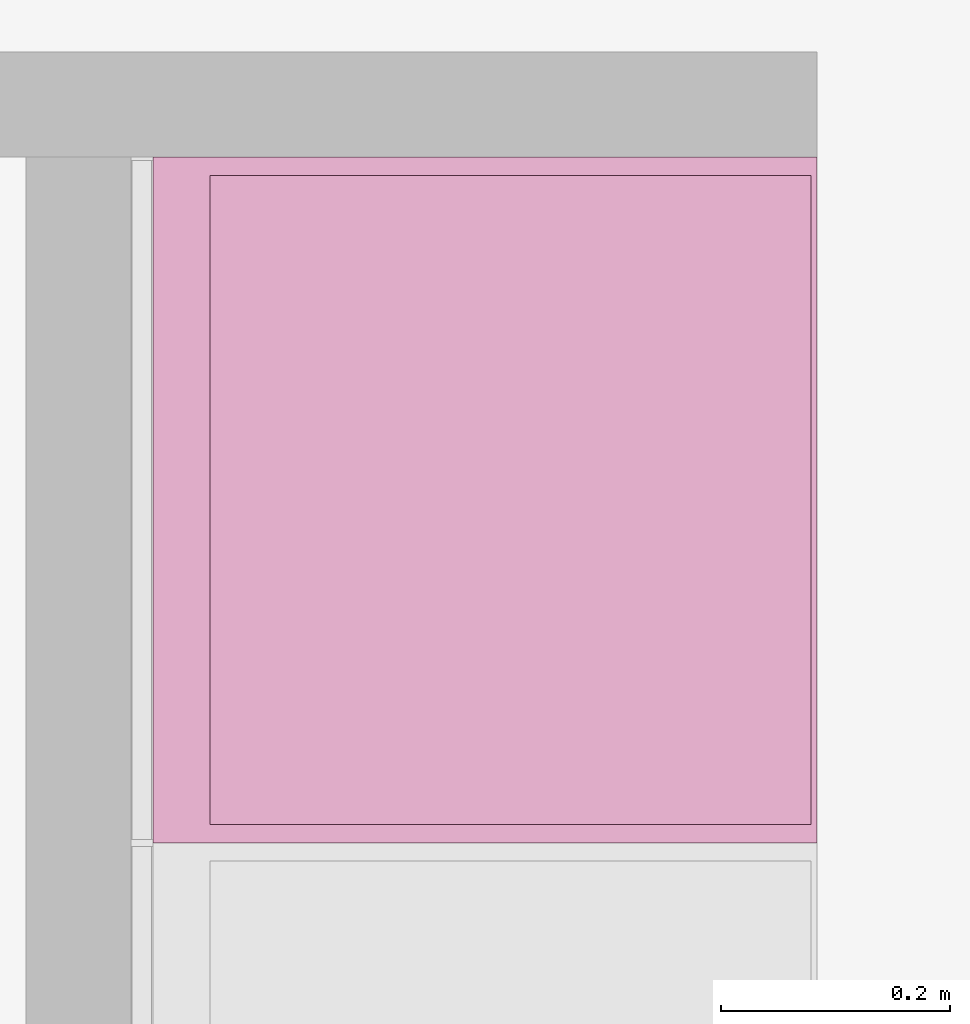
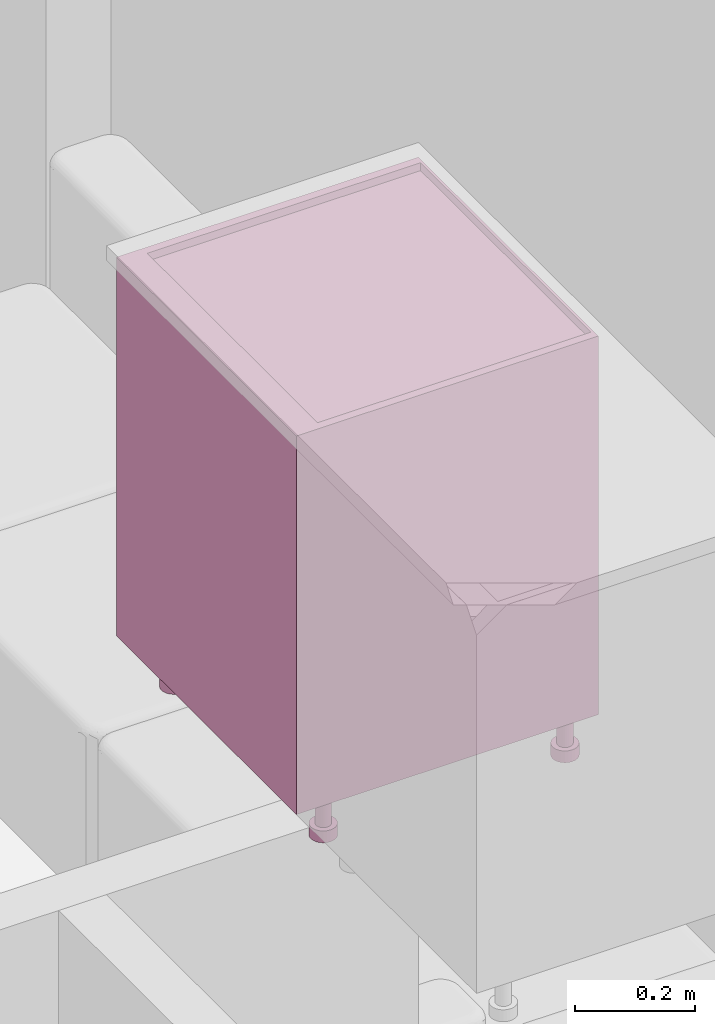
# One storey, part 76 of 125: 1 furnishing.
"""IFC2X3 building model written with IfcOpenShell, lengths in millimetres."""

import ifcopenshell
import ifcopenshell.guid

model = None  # the IFC model being written
_history = None  # IfcOwnerHistory: only IFC2X3 demands one
_inside = {}  # id of a spatial element -> (the spatial element, [elements in it])
_under = {}  # id of a project, library or spatial element -> (it, [spatial elements below it])
_declared = {}  # id of a project -> (the project, [libraries it declares])
_typed = {}  # id of a type object -> (the type object, [elements of that type])
_made_of = {}  # id of a material, layer set ... -> (it, [elements and type objects made of it])


def new_model(schema):
    """Start an empty IFC model of exactly this schema.

    Asked for "IFC4X3", IfcOpenShell would pick the latest addendum, in which some entities
    have other attributes; the version numbers below select the first issue.
    IFC2X3 requires an IfcOwnerHistory on every rooted entity: one is made here for all.
    """
    global model, _history
    if schema == "IFC4X3":
        model = ifcopenshell.file(schema_version=(4, 3, 0, 0))
    else:
        model = ifcopenshell.file(schema=schema)
    _inside.clear()
    _under.clear()
    _declared.clear()
    _typed.clear()
    _made_of.clear()
    _history = None
    if model.schema == "IFC2X3":
        org = make("IfcOrganization", Name="unknown")
        user = make(
            "IfcPersonAndOrganization",
            ThePerson=make("IfcPerson", FamilyName="unknown"),
            TheOrganization=org,
        )
        app = make(
            "IfcApplication",
            ApplicationDeveloper=org,
            Version="unknown",
            ApplicationFullName="unknown",
            ApplicationIdentifier="unknown",
        )
        _history = make(
            "IfcOwnerHistory",
            OwningUser=user,
            OwningApplication=app,
            ChangeAction="ADDED",
            CreationDate=0,
        )
    return model


def make(cls, **values):
    """One entity of the class cls with the attributes given. An attribute that is None is left unset."""
    return model.create_entity(
        cls, **{name: value for name, value in values.items() if value is not None}
    )


def entity(cls, *values):
    """Any entity or typed value of the class cls, its attributes in the order of the schema. None: left unset."""
    e = model.create_entity(cls)
    for i, value in enumerate(values):
        if value is not None:
            e[i] = value
    return e


def rooted(cls, **values):
    """An entity with a GlobalId (a new one), such as an element, a storey or a relation."""
    return make(cls, GlobalId=ifcopenshell.guid.new(), OwnerHistory=_history, **values)


def si_unit(unit_type, name, prefix=None):
    """IfcSIUnit, for example si_unit("LENGTHUNIT", "METRE", prefix="MILLI")."""
    return make("IfcSIUnit", UnitType=unit_type, Prefix=prefix, Name=name)


def converted_unit(unit_type, name, factor, base, dimensions=None, offset=None):
    """IfcConversionBasedUnit, such as the inch: factor (a typed value) times the base unit."""
    return make(
        "IfcConversionBasedUnit"
        if offset is None
        else "IfcConversionBasedUnitWithOffset",
        ConversionOffset=offset,
        Dimensions=None
        if dimensions is None
        else entity("IfcDimensionalExponents", *dimensions),
        UnitType=unit_type,
        Name=name,
        ConversionFactor=make(
            "IfcMeasureWithUnit", ValueComponent=factor, UnitComponent=base
        ),
    )


def assignment(units):
    """IfcUnitAssignment: the units of a project."""
    return None if units is None else make("IfcUnitAssignment", Units=units)


def point(xyz):
    """IfcCartesianPoint."""
    return None if xyz is None else make("IfcCartesianPoint", Coordinates=xyz)


def direction(xyz):
    """IfcDirection."""
    return None if xyz is None else make("IfcDirection", DirectionRatios=xyz)


def frame(location, z_axis=None, x_axis=None):
    """IfcAxis2Placement3D, a coordinate frame: its origin and axes. An axis left out is left unset."""
    return make(
        "IfcAxis2Placement3D",
        Location=point(location),
        Axis=direction(z_axis),
        RefDirection=direction(x_axis),
    )


def origin():
    """The frame at (0, 0, 0) with its axes left unset."""
    return frame((0.0, 0.0, 0.0))


def place(relative_to, where):
    """IfcLocalPlacement: puts the frame where relative to a parent placement (None: the world)."""
    return make(
        "IfcLocalPlacement", PlacementRelTo=relative_to, RelativePlacement=where
    )


def context(
    kind, dimensions, precision=None, world=None, true_north=None, identifier=None
):
    """IfcGeometricRepresentationContext, for example the 3D "Model" context."""
    return make(
        "IfcGeometricRepresentationContext",
        ContextIdentifier=identifier,
        ContextType=kind,
        CoordinateSpaceDimension=dimensions,
        Precision=precision,
        WorldCoordinateSystem=world,
        TrueNorth=true_north,
    )


def subcontext(parent, identifier, kind, view, scale=None):
    """IfcGeometricRepresentationSubContext, for example "Body" below "Model"."""
    return make(
        "IfcGeometricRepresentationSubContext",
        ContextIdentifier=identifier,
        ContextType=kind,
        ParentContext=parent,
        TargetScale=scale,
        TargetView=view,
    )


def project(units=None, contexts=None):
    """IfcProject with its units and contexts."""
    return rooted(
        "IfcProject",
        Name="project",
        RepresentationContexts=contexts,
        UnitsInContext=assignment(units),
    )


def spatial(cls, under=None, at=None, **own):
    """A site, building, storey or space (cls), placed at a placement, below another one or the project."""
    s = rooted(cls, ObjectPlacement=at, **own)
    if under is not None:
        _under.setdefault(under.id(), (under, []))[1].append(s)
    return s


def faces_of(points, faces, orient=None, outer=None):
    """IfcFace entities. A face is a list of loops; a loop is a list of indices into points, from 0.

    orient and outer hold one flag for each loop. By default every Orientation is true, the
    first loop of a face is its IfcFaceOuterBound and the others are IfcFaceBound.
    """
    made = []
    for i, loops in enumerate(faces):
        bounds = []
        for j, loop in enumerate(loops):
            is_outer = j == 0 if outer is None else outer[i][j]
            bounds.append(
                make(
                    "IfcFaceOuterBound" if is_outer else "IfcFaceBound",
                    Bound=make("IfcPolyLoop", Polygon=[points[k] for k in loop]),
                    Orientation=True if orient is None else orient[i][j],
                )
            )
        made.append(make("IfcFace", Bounds=bounds))
    return made


def faceted_brep(points, faces, orient=None, outer=None, voids=None):
    """IfcFacetedBrep: a solid bounded by flat faces; with voids (closed shells), ...WithVoids."""
    shared = [point(p) for p in points]
    hull = make("IfcClosedShell", CfsFaces=faces_of(shared, faces, orient, outer))
    if voids is None:
        return make("IfcFacetedBrep", Outer=hull)
    return make(
        "IfcFacetedBrepWithVoids",
        Outer=hull,
        Voids=[
            make(cls, CfsFaces=faces_of(shared, fs, o, b)) for cls, fs, o, b in voids
        ],
    )


def shape(context_of_items, identifier, shape_type, items):
    """IfcShapeRepresentation: the items that make up one representation, for example the "Body"."""
    return make(
        "IfcShapeRepresentation",
        ContextOfItems=context_of_items,
        RepresentationIdentifier=identifier,
        RepresentationType=shape_type,
        Items=items,
    )


def source(mapping_origin, context_of_items, identifier, shape_type, items):
    """IfcRepresentationMap: a shape defined once, which mapped items show again and again."""
    return make(
        "IfcRepresentationMap",
        MappingOrigin=mapping_origin,
        MappedRepresentation=shape(context_of_items, identifier, shape_type, items),
    )


def transform(
    local_origin,
    x_axis=None,
    y_axis=None,
    z_axis=None,
    scale=None,
    scale2=None,
    scale3=None,
    uniform=True,
):
    """IfcCartesianTransformationOperator3D, or its non-uniform kind. x_axis, y_axis, z_axis: its Axis1, 2, 3."""
    if uniform:
        return make(
            "IfcCartesianTransformationOperator3D",
            Axis1=direction(x_axis),
            Axis2=direction(y_axis),
            LocalOrigin=point(local_origin),
            Scale=scale,
            Axis3=direction(z_axis),
        )
    return make(
        "IfcCartesianTransformationOperator3DnonUniform",
        Axis1=direction(x_axis),
        Axis2=direction(y_axis),
        LocalOrigin=point(local_origin),
        Scale=scale,
        Axis3=direction(z_axis),
        Scale2=scale2,
        Scale3=scale3,
    )


def mapped(mapping_source, mapping_target):
    """IfcMappedItem: shows the shape of a source again, moved by a transform."""
    return make(
        "IfcMappedItem", MappingSource=mapping_source, MappingTarget=mapping_target
    )


def material(Name=None, Category=None):
    """IfcMaterial."""
    return make("IfcMaterial", Name=Name, Category=Category)


def made_of(thing, what):
    """Note that an element or type object is made of a material, layer set ...; save() writes the relation."""
    if what is not None:
        _made_of.setdefault(what.id(), (what, []))[1].append(thing)
    return thing


def type_object(cls, material=None, **own):
    """A type object (cls), such as IfcWallType, which elements share."""
    return made_of(rooted(cls, **own), material)


def type_shapes(of_type, sources):
    """Give a type object the sources (RepresentationMaps) that its elements show as mapped items."""
    of_type.RepresentationMaps = sources


def element(
    cls,
    number,
    at=None,
    inside=None,
    cuts=None,
    type_object=None,
    material=None,
    context=None,
    identifier="Body",
    shape_type=None,
    held_by="IfcProductDefinitionShape",
    body=None,
    shapes=None,
    **own,
):
    """One element of the class cls, such as IfcWall. Its Tag is "e" and its number.

    at: its placement. inside: the storey or other place that contains it. cuts: it is an
    opening in that element (IfcRelVoidsElement). A single representation is given by context,
    identifier, shape_type and body (its items); several are given by shapes. held_by: the class
    of the entity that holds the representations. save() writes the other relations.
    """
    e = rooted(cls, Tag="e%d" % number, ObjectPlacement=at, **own)
    if body is not None:
        shapes = [shape(context, identifier, shape_type, body)]
    if shapes is not None:
        e.Representation = make(held_by, Representations=shapes)
    if inside is not None:
        _inside.setdefault(inside.id(), (inside, []))[1].append(e)
    if cuts is not None:
        rooted(
            "IfcRelVoidsElement", RelatingBuildingElement=cuts, RelatedOpeningElement=e
        )
    if type_object is not None:
        _typed.setdefault(type_object.id(), (type_object, []))[1].append(e)
    return made_of(e, material)


def aggregate(whole, parts):
    """IfcRelAggregates: a whole, such as a stair, and the parts it consists of."""
    return rooted("IfcRelAggregates", RelatingObject=whole, RelatedObjects=parts)


def save(model, path):
    """Write the relations noted so far, then the file.

    IfcRelAggregates (storeys below a building ...), IfcRelContainedInSpatialStructure (elements
    in a storey), IfcRelDefinesByType, IfcRelAssociatesMaterial and IfcRelDeclares: one each for
    every whole, place, type object, material and project.
    """
    for whole, parts in _under.values():
        aggregate(whole, parts)
    for where, things in _inside.values():
        rooted(
            "IfcRelContainedInSpatialStructure",
            RelatedElements=things,
            RelatingStructure=where,
        )
    for kind, things in _typed.values():
        rooted("IfcRelDefinesByType", RelatedObjects=things, RelatingType=kind)
    for what, things in _made_of.values():
        rooted("IfcRelAssociatesMaterial", RelatedObjects=things, RelatingMaterial=what)
    for by, libraries in _declared.values():
        rooted("IfcRelDeclares", RelatingContext=by, RelatedDefinitions=libraries)
    model.write(path)


model = new_model("IFC2X3")

# Units and contexts
model_context = context("Model", 3, precision=0.01, world=origin(), true_north=direction((6.123233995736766e-17, 1.0)))
plan_context = context("Plan", 3, precision=0.01, world=origin(), true_north=direction((6.123233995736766e-17, 1.0)))
body_context = subcontext(model_context, "Body", "Model", "MODEL_VIEW")
ifc_project = project(units=[si_unit("LENGTHUNIT", "METRE", prefix="MILLI"), converted_unit("PLANEANGLEUNIT", "DEGREE", entity("IfcPlaneAngleMeasure", 0.017453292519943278), si_unit("PLANEANGLEUNIT", "RADIAN"), dimensions=[0, 0, 0, 0, 0, 0, 0]), si_unit("AREAUNIT", "SQUARE_METRE")], contexts=[model_context, plan_context])

# Site, building, storey, space
site_placement = place(None, origin())
site = spatial("IfcSite", under=ifc_project, at=site_placement, Name="Default", CompositionType="ELEMENT")
building_placement = place(site_placement, origin())
building = spatial("IfcBuilding", under=site, at=building_placement, CompositionType="ELEMENT")
storey_placement = place(building_placement, frame((0.0, 0.0, 3125.0)))
storey = spatial("IfcBuildingStorey", under=building, at=storey_placement, Name="2K", CompositionType="ELEMENT", Elevation=3125.0)
space_placement = place(storey_placement, origin())
space = spatial("IfcSpace", under=storey, at=space_placement, Name="2-2.2", CompositionType="ELEMENT", InteriorOrExteriorSpace="INTERNAL")

# Furnishing
ifc_material = material(Name="<Unnamed>")
furniture_type = type_object("IfcFurnitureType", Name="HR_Casework_Kitchen_Generic_Appliance_v1:Fridge", AssemblyPlace="NOTDEFINED", material=ifc_material)
shared_shape = source(origin(), body_context, "Body", "Brep", [
    faceted_brep([(305.7003264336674, -585.7846096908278, -3101.0), (310.6708891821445, -581.9705627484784, -3101.0), (300.70032643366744, -577.1243556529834, -3101.0), (297.32379306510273, -578.5229615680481, -3101.0), (299.91198351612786, -588.1822198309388, -3101.0), (303.59982137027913, -574.8994949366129, -3101.0), (314.4849361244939, -577.0, -3101.0), (305.82468208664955, -572.0, -3101.0), (307.2232880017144, -568.6234666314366, -3101.0), (316.8825462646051, -571.2116570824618, -3101.0), (307.70032643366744, -565.0, -3101.0), (317.7003264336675, -565.0, -3101.0), (307.2232880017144, -561.3765333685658, -3101.0), (316.88254626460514, -558.7883429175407, -3101.0), (305.82468208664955, -558.0, -3101.0), (314.484936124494, -553.0, -3101.0), (303.59982137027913, -555.1005050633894, -3101.0), (310.67088918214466, -548.0294372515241, -3101.0), (300.70032643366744, -552.875644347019, -3101.0), (305.7003264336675, -544.2153903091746, -3101.0), (297.32379306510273, -551.4770384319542, -3101.0), (299.91198351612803, -541.8177801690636, -3101.0), (293.7003264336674, -551.0, -3101.0), (293.70032643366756, -541.0, -3101.0), (290.07685980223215, -551.4770384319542, -3101.0), (287.488669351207, -541.8177801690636, -3101.0), (286.70032643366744, -552.875644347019, -3101.0), (281.7003264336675, -544.2153903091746, -3101.0), (283.80083149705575, -555.1005050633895, -3101.0), (276.7297636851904, -548.029437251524, -3101.0), (281.5759707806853, -558.0, -3101.0), (272.91571674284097, -553.0, -3101.0), (270.51810660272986, -558.7883429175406, -3101.0), (280.1773648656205, -561.3765333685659, -3101.0), (269.7003264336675, -565.0, -3101.0), (279.7003264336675, -565.0, -3101.0), (270.51810660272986, -571.2116570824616, -3101.0), (280.1773648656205, -568.6234666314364, -3101.0), (272.9157167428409, -577.0, -3101.0), (281.57597078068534, -572.0, -3101.0), (276.7297636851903, -581.9705627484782, -3101.0), (283.80083149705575, -574.8994949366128, -3101.0), (281.70032643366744, -585.7846096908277, -3101.0), (286.70032643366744, -577.1243556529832, -3101.0), (287.4886693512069, -588.1822198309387, -3101.0), (290.07685980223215, -578.5229615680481, -3101.0), (293.7003264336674, -589.0, -3101.0), (293.70032643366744, -579.0, -3101.0), (299.91198351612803, -541.8177801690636, -3125.0), (305.7003264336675, -544.2153903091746, -3125.0), (310.67088918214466, -548.0294372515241, -3125.0), (314.484936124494, -553.0, -3125.0), (316.88254626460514, -558.7883429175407, -3125.0), (317.7003264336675, -565.0, -3125.0), (316.8825462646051, -571.2116570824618, -3125.0), (314.4849361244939, -577.0, -3125.0), (310.6708891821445, -581.9705627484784, -3125.0), (305.7003264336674, -585.7846096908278, -3125.0), (299.91198351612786, -588.1822198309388, -3125.0), (293.7003264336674, -589.0, -3125.0), (287.4886693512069, -588.1822198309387, -3125.0), (281.70032643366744, -585.7846096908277, -3125.0), (276.7297636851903, -581.9705627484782, -3125.0), (272.9157167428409, -577.0, -3125.0), (270.51810660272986, -571.2116570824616, -3125.0), (269.7003264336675, -565.0, -3125.0), (270.51810660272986, -558.7883429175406, -3125.0), (272.91571674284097, -553.0, -3125.0), (276.7297636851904, -548.029437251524, -3125.0), (281.7003264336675, -544.2153903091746, -3125.0), (287.488669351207, -541.8177801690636, -3125.0), (293.70032643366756, -541.0, -3125.0), (297.32379306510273, -578.5229615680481, -3025.0), (300.70032643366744, -577.1243556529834, -3025.0), (303.59982137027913, -574.8994949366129, -3025.0), (305.8246820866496, -572.0, -3025.0), (307.2232880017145, -568.6234666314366, -3025.0), (307.70032643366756, -565.0, -3025.0), (307.2232880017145, -561.3765333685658, -3025.0), (305.8246820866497, -558.0, -3025.0), (303.5998213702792, -555.1005050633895, -3025.0), (300.70032643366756, -552.875644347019, -3025.0), (297.32379306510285, -551.4770384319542, -3025.0), (293.70032643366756, -551.0, -3025.0), (290.07685980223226, -551.4770384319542, -3025.0), (286.70032643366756, -552.875644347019, -3025.0), (283.80083149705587, -555.1005050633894, -3025.0), (281.5759707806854, -558.0, -3025.0), (280.1773648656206, -561.3765333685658, -3025.0), (279.70032643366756, -565.0, -3025.0), (280.1773648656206, -568.6234666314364, -3025.0), (281.5759707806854, -572.0, -3025.0), (283.8008314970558, -574.8994949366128, -3025.0), (286.7003264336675, -577.1243556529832, -3025.0), (290.07685980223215, -578.5229615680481, -3025.0), (293.70032643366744, -579.0, -3025.0)], [[[0, 1, 2]], [[0, 2, 3]], [[3, 4, 0]], [[2, 1, 5]], [[6, 5, 1]], [[7, 5, 6]], [[8, 7, 6]], [[8, 6, 9]], [[8, 9, 10]], [[10, 9, 11]], [[12, 10, 11]], [[12, 11, 13]], [[14, 12, 13]], [[14, 13, 15]], [[16, 14, 15]], [[15, 17, 16]], [[17, 18, 16]], [[18, 17, 19]], [[18, 19, 20]], [[21, 20, 19]], [[20, 21, 22]], [[22, 21, 23]], [[23, 24, 22]], [[24, 23, 25]], [[24, 25, 26]], [[27, 26, 25]], [[27, 28, 26]], [[27, 29, 28]], [[30, 28, 29]], [[31, 30, 29]], [[32, 30, 31]], [[33, 30, 32]], [[33, 32, 34]], [[34, 35, 33]], [[36, 35, 34]], [[36, 37, 35]], [[37, 36, 38]], [[39, 37, 38]], [[39, 38, 40]], [[39, 40, 41]], [[40, 42, 41]], [[41, 42, 43]], [[43, 42, 44]], [[44, 45, 43]], [[46, 45, 44]], [[4, 47, 46]], [[45, 46, 47]], [[4, 3, 47]], [[48, 49, 50, 51, 52, 53, 54, 55, 56, 57, 58, 59, 60, 61, 62, 63, 64, 65, 66, 67, 68, 69, 70, 71]], [[64, 36, 34, 65]], [[63, 38, 36, 64]], [[42, 40, 62, 61]], [[63, 62, 40, 38]], [[44, 42, 61, 60]], [[46, 44, 60, 59]], [[58, 4, 46, 59]], [[57, 0, 4, 58]], [[54, 53, 11, 9]], [[1, 0, 57, 56]], [[6, 55, 54, 9]], [[6, 1, 56, 55]], [[52, 13, 11, 53]], [[51, 15, 13, 52]], [[19, 17, 50, 49]], [[51, 50, 17, 15]], [[21, 19, 49, 48]], [[23, 21, 48, 71]], [[27, 69, 68, 29]], [[31, 67, 66, 32]], [[68, 67, 31, 29]], [[32, 66, 65, 34]], [[25, 70, 69, 27]], [[70, 25, 23, 71]], [[72, 73, 74, 75, 76, 77, 78, 79, 80, 81, 82, 83, 84, 85, 86, 87, 88, 89, 90, 91, 92, 93, 94, 95]], [[37, 39, 91, 90]], [[35, 37, 90, 89]], [[43, 45, 94, 93]], [[41, 43, 93, 92]], [[39, 41, 92, 91]], [[47, 95, 94, 45]], [[2, 5, 74, 73]], [[3, 2, 73, 72]], [[8, 10, 77, 76]], [[7, 8, 76, 75]], [[5, 7, 75, 74]], [[3, 72, 95, 47]], [[79, 78, 12, 14]], [[78, 77, 10, 12]], [[80, 16, 18, 81]], [[16, 80, 79, 14]], [[81, 18, 20, 82]], [[22, 83, 82, 20]], [[26, 28, 86, 85]], [[24, 26, 85, 84]], [[33, 35, 89, 88]], [[30, 33, 88, 87]], [[28, 30, 87, 86]], [[24, 84, 83, 22]]]),
    faceted_brep([(-192.29967356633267, -585.7846096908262, -3101.0), (-187.3291108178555, -581.9705627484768, -3101.0), (-197.29967356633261, -577.1243556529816, -3101.0), (-200.67620693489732, -578.5229615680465, -3101.0), (-198.08801648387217, -588.1822198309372, -3101.0), (-194.40017862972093, -574.8994949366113, -3101.0), (-183.51506387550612, -577.0, -3101.0), (-192.17531791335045, -572.0, -3101.0), (-190.77671199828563, -568.6234666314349, -3101.0), (-181.11745373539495, -571.2116570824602, -3101.0), (-190.29967356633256, -565.0, -3101.0), (-180.29967356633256, -565.0, -3101.0), (-190.77671199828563, -561.3765333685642, -3101.0), (-181.11745373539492, -558.788342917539, -3101.0), (-192.17531791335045, -558.0, -3101.0), (-183.515063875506, -553.0, -3101.0), (-194.40017862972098, -555.1005050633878, -3101.0), (-187.3291108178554, -548.0294372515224, -3101.0), (-197.29967356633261, -552.8756443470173, -3101.0), (-192.29967356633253, -544.215390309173, -3101.0), (-200.67620693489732, -551.4770384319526, -3101.0), (-198.08801648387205, -541.8177801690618, -3101.0), (-204.29967356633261, -551.0, -3101.0), (-204.29967356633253, -541.0, -3101.0), (-207.92314019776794, -551.4770384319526, -3101.0), (-210.51133064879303, -541.8177801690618, -3101.0), (-211.29967356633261, -552.8756443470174, -3101.0), (-216.29967356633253, -544.215390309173, -3101.0), (-214.19916850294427, -555.1005050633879, -3101.0), (-221.27023631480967, -548.0294372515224, -3101.0), (-216.42402921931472, -558.0, -3101.0), (-225.08428325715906, -553.0, -3101.0), (-227.48189339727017, -558.788342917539, -3101.0), (-217.8226351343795, -561.3765333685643, -3101.0), (-228.2996735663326, -565.0, -3101.0), (-218.29967356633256, -565.0, -3101.0), (-227.48189339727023, -571.21165708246, -3101.0), (-217.8226351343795, -568.6234666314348, -3101.0), (-225.08428325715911, -577.0, -3101.0), (-216.42402921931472, -572.0, -3101.0), (-221.27023631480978, -581.9705627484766, -3101.0), (-214.19916850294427, -574.8994949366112, -3101.0), (-216.29967356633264, -585.784609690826, -3101.0), (-211.29967356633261, -577.1243556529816, -3101.0), (-210.51133064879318, -588.1822198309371, -3101.0), (-207.9231401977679, -578.5229615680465, -3101.0), (-204.2996735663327, -589.0, -3101.0), (-204.29967356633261, -579.0, -3101.0), (-198.08801648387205, -541.8177801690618, -3125.0), (-192.29967356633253, -544.215390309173, -3125.0), (-187.3291108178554, -548.0294372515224, -3125.0), (-183.515063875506, -553.0, -3125.0), (-181.11745373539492, -558.788342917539, -3125.0), (-180.29967356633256, -565.0, -3125.0), (-181.11745373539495, -571.2116570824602, -3125.0), (-183.51506387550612, -577.0, -3125.0), (-187.3291108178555, -581.9705627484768, -3125.0), (-192.29967356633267, -585.7846096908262, -3125.0), (-198.08801648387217, -588.1822198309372, -3125.0), (-204.2996735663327, -589.0, -3125.0), (-210.51133064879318, -588.1822198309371, -3125.0), (-216.29967356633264, -585.784609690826, -3125.0), (-221.27023631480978, -581.9705627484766, -3125.0), (-225.08428325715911, -577.0, -3125.0), (-227.48189339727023, -571.21165708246, -3125.0), (-228.2996735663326, -565.0, -3125.0), (-227.48189339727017, -558.788342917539, -3125.0), (-225.08428325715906, -553.0, -3125.0), (-221.27023631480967, -548.0294372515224, -3125.0), (-216.29967356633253, -544.215390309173, -3125.0), (-210.51133064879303, -541.8177801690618, -3125.0), (-204.29967356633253, -541.0, -3125.0), (-200.67620693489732, -578.5229615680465, -3025.0), (-197.29967356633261, -577.1243556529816, -3025.0), (-194.40017862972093, -574.8994949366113, -3025.0), (-192.17531791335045, -572.0, -3025.0), (-190.77671199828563, -568.6234666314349, -3025.0), (-190.29967356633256, -565.0, -3025.0), (-190.77671199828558, -561.3765333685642, -3025.0), (-192.1753179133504, -558.0, -3025.0), (-194.40017862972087, -555.1005050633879, -3025.0), (-197.29967356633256, -552.8756443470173, -3025.0), (-200.67620693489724, -551.4770384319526, -3025.0), (-204.29967356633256, -551.0, -3025.0), (-207.92314019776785, -551.4770384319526, -3025.0), (-211.29967356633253, -552.8756443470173, -3025.0), (-214.1991685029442, -555.1005050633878, -3025.0), (-216.4240292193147, -558.0, -3025.0), (-217.8226351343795, -561.3765333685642, -3025.0), (-218.29967356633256, -565.0, -3025.0), (-217.8226351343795, -568.6234666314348, -3025.0), (-216.42402921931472, -572.0, -3025.0), (-214.19916850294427, -574.8994949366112, -3025.0), (-211.2996735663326, -577.1243556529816, -3025.0), (-207.9231401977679, -578.5229615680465, -3025.0), (-204.29967356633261, -579.0, -3025.0)], [[[0, 1, 2]], [[0, 2, 3]], [[3, 4, 0]], [[2, 1, 5]], [[6, 5, 1]], [[7, 5, 6]], [[8, 7, 6]], [[8, 6, 9]], [[8, 9, 10]], [[10, 9, 11]], [[12, 10, 11]], [[12, 11, 13]], [[14, 12, 13]], [[14, 13, 15]], [[16, 14, 15]], [[15, 17, 16]], [[17, 18, 16]], [[18, 17, 19]], [[18, 19, 20]], [[21, 20, 19]], [[20, 21, 22]], [[22, 21, 23]], [[23, 24, 22]], [[24, 23, 25]], [[24, 25, 26]], [[27, 26, 25]], [[27, 28, 26]], [[27, 29, 28]], [[30, 28, 29]], [[31, 30, 29]], [[32, 30, 31]], [[33, 30, 32]], [[33, 32, 34]], [[34, 35, 33]], [[36, 35, 34]], [[36, 37, 35]], [[37, 36, 38]], [[39, 37, 38]], [[39, 38, 40]], [[39, 40, 41]], [[40, 42, 41]], [[41, 42, 43]], [[43, 42, 44]], [[44, 45, 43]], [[46, 45, 44]], [[4, 47, 46]], [[45, 46, 47]], [[4, 3, 47]], [[48, 49, 50, 51, 52, 53, 54, 55, 56, 57, 58, 59, 60, 61, 62, 63, 64, 65, 66, 67, 68, 69, 70, 71]], [[64, 36, 34, 65]], [[63, 38, 36, 64]], [[42, 40, 62, 61]], [[63, 62, 40, 38]], [[44, 42, 61, 60]], [[46, 44, 60, 59]], [[58, 4, 46, 59]], [[57, 0, 4, 58]], [[54, 53, 11, 9]], [[1, 0, 57, 56]], [[6, 55, 54, 9]], [[6, 1, 56, 55]], [[52, 13, 11, 53]], [[51, 15, 13, 52]], [[19, 17, 50, 49]], [[51, 50, 17, 15]], [[21, 19, 49, 48]], [[23, 21, 48, 71]], [[27, 69, 68, 29]], [[31, 67, 66, 32]], [[68, 67, 31, 29]], [[32, 66, 65, 34]], [[25, 70, 69, 27]], [[70, 25, 23, 71]], [[72, 73, 74, 75, 76, 77, 78, 79, 80, 81, 82, 83, 84, 85, 86, 87, 88, 89, 90, 91, 92, 93, 94, 95]], [[37, 39, 91, 90]], [[35, 37, 90, 89]], [[43, 45, 94, 93]], [[41, 43, 93, 92]], [[39, 41, 92, 91]], [[47, 95, 94, 45]], [[2, 5, 74, 73]], [[3, 2, 73, 72]], [[8, 10, 77, 76]], [[7, 8, 76, 75]], [[5, 7, 75, 74]], [[3, 72, 95, 47]], [[79, 78, 12, 14]], [[78, 77, 10, 12]], [[80, 16, 18, 81]], [[16, 80, 79, 14]], [[81, 18, 20, 82]], [[22, 83, 82, 20]], [[26, 28, 86, 85]], [[24, 26, 85, 84]], [[33, 35, 89, 88]], [[30, 33, 88, 87]], [[28, 30, 87, 86]], [[24, 84, 83, 22]]]),
    faceted_brep([(305.70032643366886, -120.78460969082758, -3101.0), (310.670889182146, -116.97056274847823, -3101.0), (300.7003264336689, -112.12435565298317, -3101.0), (297.3237930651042, -113.52296156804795, -3101.0), (299.91198351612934, -123.18221983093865, -3101.0), (303.5998213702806, -109.8994949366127, -3101.0), (314.48493612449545, -112.0, -3101.0), (305.824682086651, -107.0, -3101.0), (307.2232880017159, -103.62346663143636, -3101.0), (316.88254626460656, -106.21165708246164, -3101.0), (307.700326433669, -100.0, -3101.0), (317.700326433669, -100.0, -3101.0), (307.2232880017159, -96.3765333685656, -3101.0), (316.8825462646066, -93.78834291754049, -3101.0), (305.824682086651, -93.0, -3101.0), (314.4849361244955, -88.0, -3101.0), (303.5998213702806, -90.10050506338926, -3101.0), (310.67088918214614, -83.02943725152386, -3101.0), (300.7003264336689, -87.8756443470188, -3101.0), (305.700326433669, -79.21539030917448, -3101.0), (297.3237930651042, -86.477038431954, -3101.0), (299.9119835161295, -76.81778016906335, -3101.0), (293.70032643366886, -86.0, -3101.0), (293.70032643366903, -76.0, -3101.0), (290.0768598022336, -86.47703843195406, -3101.0), (287.4886693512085, -76.81778016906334, -3101.0), (286.7003264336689, -87.87564434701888, -3101.0), (281.700326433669, -79.21539030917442, -3101.0), (283.8008314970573, -90.10050506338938, -3101.0), (276.72976368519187, -83.0294372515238, -3101.0), (281.5759707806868, -93.0, -3101.0), (272.91571674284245, -88.0, -3101.0), (270.51810660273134, -93.78834291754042, -3101.0), (280.177364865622, -96.37653336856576, -3101.0), (269.700326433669, -100.0, -3101.0), (279.700326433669, -100.0, -3101.0), (270.51810660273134, -106.2116570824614, -3101.0), (280.177364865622, -103.62346663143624, -3101.0), (272.9157167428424, -112.0, -3101.0), (281.5759707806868, -107.0, -3101.0), (276.72976368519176, -116.97056274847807, -3101.0), (283.8008314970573, -109.89949493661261, -3101.0), (281.7003264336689, -120.78460969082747, -3101.0), (286.7003264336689, -112.1243556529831, -3101.0), (287.4886693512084, -123.1822198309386, -3101.0), (290.0768598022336, -113.52296156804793, -3101.0), (293.70032643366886, -124.0, -3101.0), (293.7003264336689, -114.0, -3101.0), (299.9119835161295, -76.81778016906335, -3125.0), (305.700326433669, -79.21539030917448, -3125.0), (310.67088918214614, -83.02943725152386, -3125.0), (314.4849361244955, -88.0, -3125.0), (316.8825462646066, -93.78834291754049, -3125.0), (317.700326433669, -100.0, -3125.0), (316.88254626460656, -106.21165708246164, -3125.0), (314.48493612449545, -112.0, -3125.0), (310.670889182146, -116.97056274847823, -3125.0), (305.70032643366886, -120.78460969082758, -3125.0), (299.91198351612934, -123.18221983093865, -3125.0), (293.70032643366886, -124.0, -3125.0), (287.4886693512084, -123.1822198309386, -3125.0), (281.7003264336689, -120.78460969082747, -3125.0), (276.72976368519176, -116.97056274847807, -3125.0), (272.9157167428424, -112.0, -3125.0), (270.51810660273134, -106.2116570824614, -3125.0), (269.700326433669, -100.0, -3125.0), (270.51810660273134, -93.78834291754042, -3125.0), (272.91571674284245, -88.0, -3125.0), (276.72976368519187, -83.0294372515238, -3125.0), (281.700326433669, -79.21539030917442, -3125.0), (287.4886693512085, -76.81778016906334, -3125.0), (293.70032643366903, -76.0, -3125.0), (297.32379306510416, -113.52296156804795, -3025.0), (300.70032643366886, -112.12435565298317, -3025.0), (303.59982137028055, -109.8994949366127, -3025.0), (305.824682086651, -107.0, -3025.0), (307.22328800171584, -103.62346663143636, -3025.0), (307.700326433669, -100.0, -3025.0), (307.2232880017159, -96.3765333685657, -3025.0), (305.82468208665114, -93.0, -3025.0), (303.5998213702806, -90.10050506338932, -3025.0), (300.700326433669, -87.87564434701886, -3025.0), (297.32379306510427, -86.47703843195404, -3025.0), (293.700326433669, -86.0, -3025.0), (290.0768598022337, -86.47703843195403, -3025.0), (286.700326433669, -87.87564434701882, -3025.0), (283.8008314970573, -90.1005050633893, -3025.0), (281.5759707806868, -93.0, -3025.0), (280.177364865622, -96.37653336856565, -3025.0), (279.700326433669, -100.0, -3025.0), (280.177364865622, -103.62346663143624, -3025.0), (281.5759707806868, -107.0, -3025.0), (283.80083149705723, -109.89949493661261, -3025.0), (286.7003264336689, -112.1243556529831, -3025.0), (290.07685980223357, -113.52296156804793, -3025.0), (293.70032643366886, -114.0, -3025.0)], [[[0, 1, 2]], [[0, 2, 3]], [[3, 4, 0]], [[2, 1, 5]], [[6, 5, 1]], [[7, 5, 6]], [[8, 7, 6]], [[8, 6, 9]], [[8, 9, 10]], [[10, 9, 11]], [[12, 10, 11]], [[12, 11, 13]], [[14, 12, 13]], [[14, 13, 15]], [[16, 14, 15]], [[15, 17, 16]], [[17, 18, 16]], [[18, 17, 19]], [[18, 19, 20]], [[21, 20, 19]], [[20, 21, 22]], [[22, 21, 23]], [[23, 24, 22]], [[24, 23, 25]], [[24, 25, 26]], [[27, 26, 25]], [[27, 28, 26]], [[27, 29, 28]], [[30, 28, 29]], [[31, 30, 29]], [[32, 30, 31]], [[33, 30, 32]], [[33, 32, 34]], [[34, 35, 33]], [[36, 35, 34]], [[36, 37, 35]], [[37, 36, 38]], [[39, 37, 38]], [[39, 38, 40]], [[39, 40, 41]], [[40, 42, 41]], [[41, 42, 43]], [[43, 42, 44]], [[44, 45, 43]], [[46, 45, 44]], [[4, 47, 46]], [[45, 46, 47]], [[4, 3, 47]], [[48, 49, 50, 51, 52, 53, 54, 55, 56, 57, 58, 59, 60, 61, 62, 63, 64, 65, 66, 67, 68, 69, 70, 71]], [[64, 36, 34, 65]], [[63, 38, 36, 64]], [[42, 40, 62, 61]], [[63, 62, 40, 38]], [[44, 42, 61, 60]], [[46, 44, 60, 59]], [[58, 4, 46, 59]], [[57, 0, 4, 58]], [[54, 53, 11, 9]], [[1, 0, 57, 56]], [[6, 55, 54, 9]], [[6, 1, 56, 55]], [[52, 13, 11, 53]], [[51, 15, 13, 52]], [[19, 17, 50, 49]], [[51, 50, 17, 15]], [[21, 19, 49, 48]], [[23, 21, 48, 71]], [[27, 69, 68, 29]], [[31, 67, 66, 32]], [[68, 67, 31, 29]], [[32, 66, 65, 34]], [[25, 70, 69, 27]], [[70, 25, 23, 71]], [[72, 73, 74, 75, 76, 77, 78, 79, 80, 81, 82, 83, 84, 85, 86, 87, 88, 89, 90, 91, 92, 93, 94, 95]], [[37, 39, 91, 90]], [[35, 37, 90, 89]], [[43, 45, 94, 93]], [[41, 43, 93, 92]], [[39, 41, 92, 91]], [[47, 95, 94, 45]], [[2, 5, 74, 73]], [[3, 2, 73, 72]], [[8, 10, 77, 76]], [[7, 8, 76, 75]], [[5, 7, 75, 74]], [[3, 72, 95, 47]], [[79, 78, 12, 14]], [[78, 77, 10, 12]], [[80, 16, 18, 81]], [[16, 80, 79, 14]], [[81, 18, 20, 82]], [[22, 83, 82, 20]], [[26, 28, 86, 85]], [[24, 26, 85, 84]], [[33, 35, 89, 88]], [[30, 33, 88, 87]], [[28, 30, 87, 86]], [[24, 84, 83, 22]]]),
    faceted_brep([(-192.299673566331, -120.78460969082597, -3101.0), (-187.3291108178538, -116.97056274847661, -3101.0), (-197.29967356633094, -112.12435565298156, -3101.0), (-200.67620693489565, -113.52296156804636, -3101.0), (-198.0880164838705, -123.18221983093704, -3101.0), (-194.40017862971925, -109.89949493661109, -3101.0), (-183.5150638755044, -112.0, -3101.0), (-192.17531791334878, -107.0, -3101.0), (-190.77671199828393, -103.62346663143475, -3101.0), (-181.11745373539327, -106.21165708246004, -3101.0), (-190.29967356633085, -100.0, -3101.0), (-180.29967356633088, -100.0, -3101.0), (-190.77671199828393, -96.376533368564, -3101.0), (-181.11745373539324, -93.78834291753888, -3101.0), (-192.17531791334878, -93.0, -3101.0), (-183.51506387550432, -88.0, -3101.0), (-194.40017862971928, -90.10050506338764, -3101.0), (-187.32911081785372, -83.02943725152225, -3101.0), (-197.29967356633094, -87.8756443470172, -3101.0), (-192.29967356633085, -79.21539030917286, -3101.0), (-200.67620693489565, -86.4770384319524, -3101.0), (-198.08801648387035, -76.81778016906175, -3101.0), (-204.29967356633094, -86.0, -3101.0), (-204.29967356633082, -76.0, -3101.0), (-207.92314019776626, -86.47703843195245, -3101.0), (-210.51133064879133, -76.81778016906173, -3101.0), (-211.29967356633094, -87.87564434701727, -3101.0), (-216.29967356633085, -79.21539030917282, -3101.0), (-214.19916850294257, -90.10050506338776, -3101.0), (-221.270236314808, -83.0294372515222, -3101.0), (-216.424029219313, -93.0, -3101.0), (-225.08428325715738, -88.0, -3101.0), (-227.4818933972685, -93.78834291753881, -3101.0), (-217.82263513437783, -96.37653336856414, -3101.0), (-228.29967356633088, -100.0, -3101.0), (-218.29967356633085, -100.0, -3101.0), (-227.48189339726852, -106.2116570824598, -3101.0), (-217.82263513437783, -103.62346663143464, -3101.0), (-225.08428325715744, -112.0, -3101.0), (-216.424029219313, -107.0, -3101.0), (-221.27023631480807, -116.97056274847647, -3101.0), (-214.19916850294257, -109.899494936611, -3101.0), (-216.29967356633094, -120.78460969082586, -3101.0), (-211.29967356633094, -112.12435565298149, -3101.0), (-210.51133064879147, -123.18221983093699, -3101.0), (-207.9231401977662, -113.52296156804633, -3101.0), (-204.299673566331, -124.0, -3101.0), (-204.29967356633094, -114.0, -3101.0), (-198.08801648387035, -76.81778016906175, -3125.0), (-192.29967356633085, -79.21539030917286, -3125.0), (-187.32911081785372, -83.02943725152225, -3125.0), (-183.51506387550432, -88.0, -3125.0), (-181.11745373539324, -93.78834291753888, -3125.0), (-180.29967356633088, -100.0, -3125.0), (-181.11745373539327, -106.21165708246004, -3125.0), (-183.5150638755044, -112.0, -3125.0), (-187.3291108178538, -116.97056274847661, -3125.0), (-192.299673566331, -120.78460969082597, -3125.0), (-198.0880164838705, -123.18221983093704, -3125.0), (-204.299673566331, -124.0, -3125.0), (-210.51133064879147, -123.18221983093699, -3125.0), (-216.29967356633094, -120.78460969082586, -3125.0), (-221.27023631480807, -116.97056274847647, -3125.0), (-225.08428325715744, -112.0, -3125.0), (-227.48189339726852, -106.2116570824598, -3125.0), (-228.29967356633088, -100.0, -3125.0), (-227.4818933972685, -93.78834291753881, -3125.0), (-225.08428325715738, -88.0, -3125.0), (-221.270236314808, -83.0294372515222, -3125.0), (-216.29967356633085, -79.21539030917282, -3125.0), (-210.51133064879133, -76.81778016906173, -3125.0), (-204.29967356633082, -76.0, -3125.0), (-200.67620693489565, -113.52296156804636, -3025.0), (-197.29967356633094, -112.12435565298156, -3025.0), (-194.40017862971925, -109.89949493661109, -3025.0), (-192.17531791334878, -107.0, -3025.0), (-190.77671199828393, -103.62346663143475, -3025.0), (-190.29967356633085, -100.0, -3025.0), (-190.7767119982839, -96.3765333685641, -3025.0), (-192.1753179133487, -93.0, -3025.0), (-194.4001786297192, -90.10050506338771, -3025.0), (-197.29967356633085, -87.87564434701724, -3025.0), (-200.67620693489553, -86.47703843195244, -3025.0), (-204.29967356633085, -86.0, -3025.0), (-207.92314019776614, -86.47703843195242, -3025.0), (-211.29967356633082, -87.87564434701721, -3025.0), (-214.1991685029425, -90.10050506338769, -3025.0), (-216.42402921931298, -93.0, -3025.0), (-217.82263513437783, -96.37653336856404, -3025.0), (-218.29967356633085, -100.0, -3025.0), (-217.82263513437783, -103.62346663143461, -3025.0), (-216.424029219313, -107.0, -3025.0), (-214.19916850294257, -109.899494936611, -3025.0), (-211.29967356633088, -112.12435565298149, -3025.0), (-207.9231401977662, -113.52296156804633, -3025.0), (-204.29967356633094, -114.0, -3025.0)], [[[0, 1, 2]], [[0, 2, 3]], [[3, 4, 0]], [[2, 1, 5]], [[6, 5, 1]], [[7, 5, 6]], [[8, 7, 6]], [[8, 6, 9]], [[8, 9, 10]], [[10, 9, 11]], [[12, 10, 11]], [[12, 11, 13]], [[14, 12, 13]], [[14, 13, 15]], [[16, 14, 15]], [[15, 17, 16]], [[17, 18, 16]], [[18, 17, 19]], [[18, 19, 20]], [[21, 20, 19]], [[20, 21, 22]], [[22, 21, 23]], [[23, 24, 22]], [[24, 23, 25]], [[24, 25, 26]], [[27, 26, 25]], [[27, 28, 26]], [[27, 29, 28]], [[30, 28, 29]], [[31, 30, 29]], [[32, 30, 31]], [[33, 30, 32]], [[33, 32, 34]], [[34, 35, 33]], [[36, 35, 34]], [[36, 37, 35]], [[37, 36, 38]], [[39, 37, 38]], [[39, 38, 40]], [[39, 40, 41]], [[40, 42, 41]], [[41, 42, 43]], [[43, 42, 44]], [[44, 45, 43]], [[46, 45, 44]], [[4, 47, 46]], [[45, 46, 47]], [[4, 3, 47]], [[48, 49, 50, 51, 52, 53, 54, 55, 56, 57, 58, 59, 60, 61, 62, 63, 64, 65, 66, 67, 68, 69, 70, 71]], [[64, 36, 34, 65]], [[63, 38, 36, 64]], [[42, 40, 62, 61]], [[63, 62, 40, 38]], [[44, 42, 61, 60]], [[46, 44, 60, 59]], [[58, 4, 46, 59]], [[57, 0, 4, 58]], [[54, 53, 11, 9]], [[1, 0, 57, 56]], [[6, 55, 54, 9]], [[6, 1, 56, 55]], [[52, 13, 11, 53]], [[51, 15, 13, 52]], [[19, 17, 50, 49]], [[51, 50, 17, 15]], [[21, 19, 49, 48]], [[23, 21, 48, 71]], [[27, 69, 68, 29]], [[31, 67, 66, 32]], [[68, 67, 31, 29]], [[32, 66, 65, 34]], [[25, 70, 69, 27]], [[70, 25, 23, 71]], [[72, 73, 74, 75, 76, 77, 78, 79, 80, 81, 82, 83, 84, 85, 86, 87, 88, 89, 90, 91, 92, 93, 94, 95]], [[37, 39, 91, 90]], [[35, 37, 90, 89]], [[43, 45, 94, 93]], [[41, 43, 93, 92]], [[39, 41, 92, 91]], [[47, 95, 94, 45]], [[2, 5, 74, 73]], [[3, 2, 73, 72]], [[8, 10, 77, 76]], [[7, 8, 76, 75]], [[5, 7, 75, 74]], [[3, 72, 95, 47]], [[79, 78, 12, 14]], [[78, 77, 10, 12]], [[80, 16, 18, 81]], [[16, 80, 79, 14]], [[81, 18, 20, 82]], [[22, 83, 82, 20]], [[26, 28, 86, 85]], [[24, 26, 85, 84]], [[33, 35, 89, 88]], [[30, 33, 88, 87]], [[28, 30, 87, 86]], [[24, 84, 83, 22]]]),
    faceted_brep([(328.70032643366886, -19.0, -3009.0), (-239.2996735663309, -19.0, -3009.0), (-239.29967356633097, -595.0, -3009.0), (328.70032643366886, -595.0, -3009.0), (328.70032643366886, -19.0, -3025.0), (328.70032643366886, -595.0, -3025.0), (-239.29967356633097, -595.0, -3025.0), (-239.29967356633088, -19.0, -3025.0)], [[[0, 1, 2, 3]], [[4, 5, 6, 7]], [[1, 0, 4, 7]], [[2, 1, 7, 6]], [[3, 2, 6, 5]], [[0, 3, 5, 4]]]),
    faceted_brep([(-255.29967356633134, -19.0, -2255.0), (-255.2996735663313, -600.0, -2255.0), (344.7003264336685, -600.0, -2255.0), (344.7003264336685, -19.0, -2255.0), (328.70032643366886, -19.0, -2255.0), (328.70032643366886, -595.0, -2255.0), (-239.2996735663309, -595.0, -2255.0), (-239.2996735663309, -19.0, -2255.0), (-255.29967356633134, -19.0, -3025.0), (-239.2996735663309, -19.0, -3025.0), (-239.29967356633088, -595.0, -3025.0), (328.70032643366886, -595.0, -3025.0), (328.70032643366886, -19.0, -3025.0), (344.7003264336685, -19.0, -3025.0), (344.7003264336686, -600.0, -3025.0), (-255.2996735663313, -600.0, -3025.0)], [[[0, 1, 2, 3, 4, 5, 6, 7]], [[8, 9, 10, 11, 12, 13, 14, 15]], [[1, 0, 8, 15]], [[0, 7, 9, 8]], [[7, 6, 10, 9]], [[5, 4, 12, 11]], [[4, 3, 13, 12]], [[3, 2, 14, 13]], [[2, 1, 15, 14]], [[6, 5, 11, 10]]]),
    faceted_brep([(328.70032643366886, -69.0, -2255.0), (328.70032643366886, -19.0, -2255.0), (-239.29967356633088, -19.0, -2255.0), (-239.29967356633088, -69.0, -2255.0), (328.70032643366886, -69.0, -2271.0), (-239.29967356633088, -69.0, -2271.0), (-239.29967356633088, -19.0, -2271.0), (328.70032643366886, -19.0, -2271.0)], [[[0, 1, 2, 3]], [[4, 5, 6, 7]], [[0, 3, 5, 4]], [[3, 2, 6, 5]], [[2, 1, 7, 6]], [[1, 0, 4, 7]]]),
    faceted_brep([(328.7003264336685, -19.0, -2271.0), (-239.29967356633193, -19.0, -2271.0), (-239.2996735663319, -595.0, -2271.0), (328.7003264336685, -595.0, -2271.0), (328.7003264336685, -19.0, -3009.0), (328.7003264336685, -595.0, -3009.0), (-239.2996735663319, -595.0, -3009.0), (-239.2996735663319, -19.0, -3009.0)], [[[0, 1, 2, 3]], [[4, 5, 6, 7]], [[1, 0, 4, 7]], [[2, 1, 7, 6]], [[3, 2, 6, 5]], [[0, 3, 5, 4]]]),
])
type_shapes(furniture_type, [shared_shape])
furnishing_placement = place(space_placement, frame((7250.0, 10393.299673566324, 6295.0), z_axis=(0.0, 0.0, 1.0), x_axis=(0.0, 1.0, 0.0)))
element("IfcFurnishingElement", 1, at=furnishing_placement, inside=space, type_object=furniture_type, material=ifc_material, Name="HR_Casework_Kitchen_Generic_Appliance_v1:Fridge", ObjectType="HR_Casework_Kitchen_Generic_Appliance_v1:Fridge", context=body_context, shape_type="MappedRepresentation", body=[
    mapped(shared_shape, transform((0.0, 0.0, 0.0), scale=1.0)),
])

save(model, "model.ifc")
